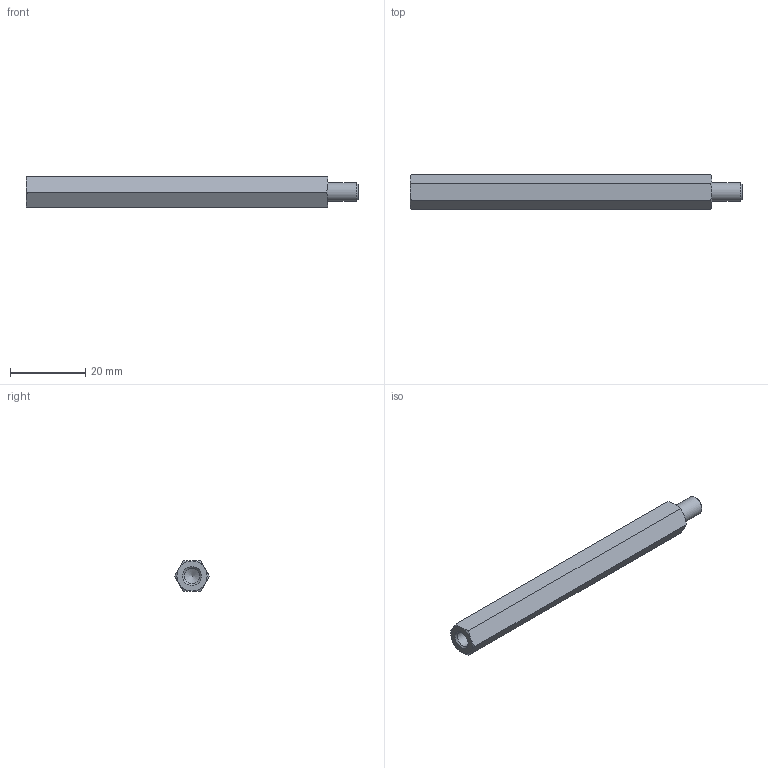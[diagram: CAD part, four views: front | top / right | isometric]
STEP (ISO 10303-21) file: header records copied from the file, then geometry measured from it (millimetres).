
FILE_DESCRIPTION( ( 'STEP AP203' ), '1' );
FILE_NAME( 'C:/Temp/Ganter_Step_05_03_2020/data/3_2/gn6220/gn6220_ni/Stainless Steel-Spacer GN 6220-NI-M5-80-B.stp', '2020-03-13T05:43:14', ( 'License CC BY-ND 4.0' ), ( 'CADENAS' ), ' ', 'PARTsolutions', ' ' );
FILE_SCHEMA( ( 'CONFIG_CONTROL_DESIGN' ) );
Length unit declared in the file: millimetre
Products named in the file (1): _Stainless Steel-Spacer GN 6220-NI-M5-80-B
Bounding box: 88 x 9.24 x 8 mm (x, y, z)
Volume: 4390.8 mm3; surface area: 2627.1 mm2
Topology: 1 solids, 1 shells, 26 faces, 55 edges, 32 vertices
Faces by surface type: cone 15, plane 9, cylinder 2
Full cylindrical faces by diameter (mm): 4.134 x1, 5 x1
Entity records: 746 total; most frequent: CARTESIAN_POINT 210, DIRECTION 96, ORIENTED_EDGE 96, EDGE_CURVE 48, AXIS2_PLACEMENT_3D 45, EDGE_LOOP 32, VERTEX_POINT 31, FACE_OUTER_BOUND 28
